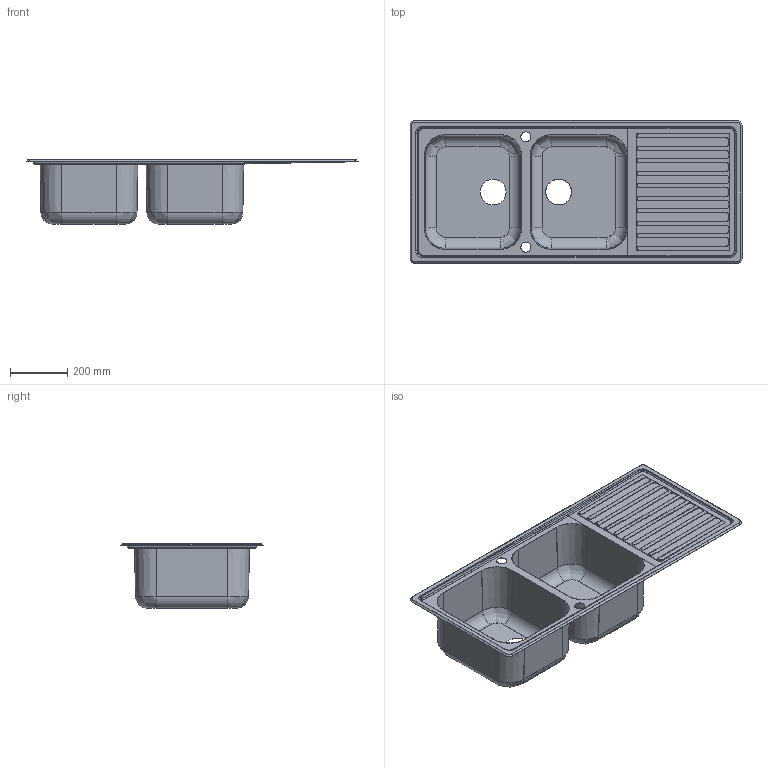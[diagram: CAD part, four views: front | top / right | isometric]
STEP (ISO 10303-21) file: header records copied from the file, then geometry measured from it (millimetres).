
FILE_DESCRIPTION(('CATIA V5 STEP Exchange'),'2;1');
FILE_NAME('C:\Users\linop\Desktop\LLR116-2.stp','2018-09-24T12:56:46+00:00',('none'),('none'),'CATIA Version 5-6 Release 2014','CATIA V5 STEP AP203','none');
FILE_SCHEMA(('CONFIG_CONTROL_DESIGN'));
Length unit declared in the file: millimetre
Products named in the file (1): LLR116-2
Bounding box: 1160 x 500 x 224.6 mm (x, y, z)
Volume: 746774.1 mm3; surface area: 2243551.1 mm2
Topology: 3 solids, 3 shells, 340 faces, 900 edges, 572 vertices
Faces by surface type: plane 154, cylinder 118, cone 32, revolution 16, torus 12, bspline 8
Entity records: 10908 total; most frequent: CARTESIAN_POINT 2894, ORIENTED_EDGE 1800, DIRECTION 1337, EDGE_CURVE 900, VERTEX_POINT 572, VECTOR 561, LINE 561, AXIS2_PLACEMENT_3D 492
